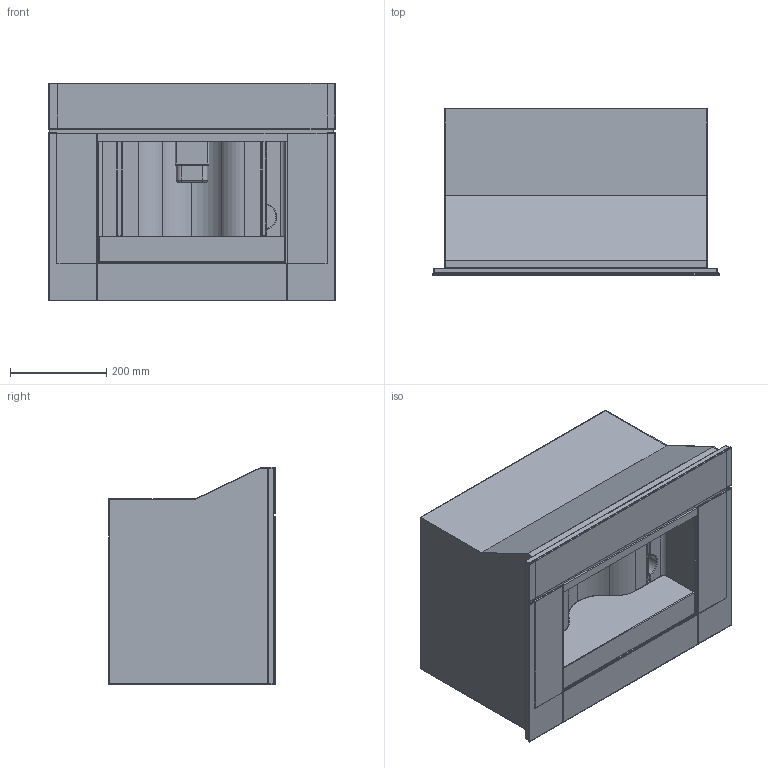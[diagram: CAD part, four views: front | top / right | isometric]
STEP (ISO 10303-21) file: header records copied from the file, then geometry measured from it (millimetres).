
FILE_DESCRIPTION (( 'STEP AP203' ), '1' );
FILE_NAME ('465211_CMA9200UX.STEP', '2015-12-10T14:33:12', ( '' ), ( '' ), 'SwSTEP 2.0', 'SolidWorks 2012', '' );
FILE_SCHEMA (( 'CONFIG_CONTROL_DESIGN' ));
Length unit declared in the file: millimetre
Products named in the file (1): 465211_CMA9200UX
Bounding box: 595.06 x 345.99 x 451.91 mm (x, y, z)
Volume: 25793769.9 mm3; surface area: 3399041.6 mm2
Topology: 13 solids, 13 shells, 456 faces, 1036 edges, 589 vertices
Faces by surface type: plane 176, cylinder 174, bspline 90, torus 12, sphere 4
Entity records: 14516 total; most frequent: CARTESIAN_POINT 4878, ORIENTED_EDGE 2032, DIRECTION 1953, EDGE_CURVE 1016, AXIS2_PLACEMENT_3D 705, VERTEX_POINT 589, LINE 543, VECTOR 543
